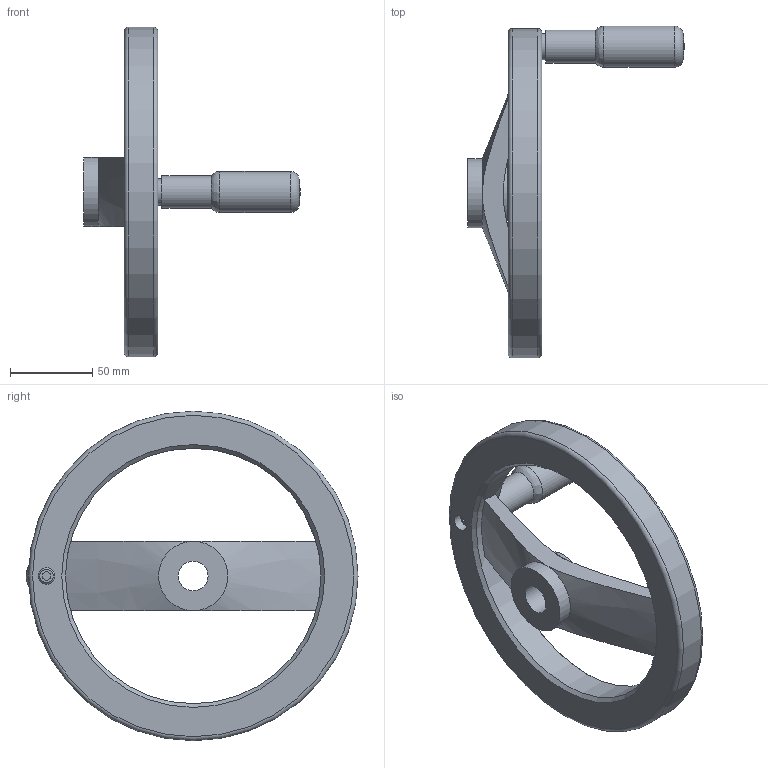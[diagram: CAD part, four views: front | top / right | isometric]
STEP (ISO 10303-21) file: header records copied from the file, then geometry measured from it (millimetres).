
FILE_DESCRIPTION( ( 'STEP AP203' ), '1' );
FILE_NAME( 'C:/Temp/Ganter_Step_05_03_2020/data/1_3/gn_324/gn_324_b/gn_324_b_d/Handwheel, matt black GN 324-200-B18-R.stp', '2020-03-05T10:32:57', ( 'License CC BY-ND 4.0' ), ( 'CADENAS' ), ' ', 'PARTsolutions', ' ' );
FILE_SCHEMA( ( 'CONFIG_CONTROL_DESIGN' ) );
Length unit declared in the file: millimetre
Products named in the file (1): _Handwheel, matt black GN 324-200-B18-R
Bounding box: 131.5 x 201.5 x 200 mm (x, y, z)
Volume: 370905.3 mm3; surface area: 70981.7 mm2
Topology: 1 solids, 2 shells, 40 faces, 86 edges, 52 vertices
Faces by surface type: plane 16, cylinder 11, cone 8, torus 3, bspline 1, sphere 1
Full cylindrical faces by diameter (mm): 8.14 x1, 10 x2, 16 x1, 18 x1, 20 x1, 25 x1, 42 x2, 155 x1, 200 x1
Entity records: 1179 total; most frequent: CARTESIAN_POINT 335, DIRECTION 170, ORIENTED_EDGE 128, AXIS2_PLACEMENT_3D 74, EDGE_LOOP 70, EDGE_CURVE 64, FACE_OUTER_BOUND 55, VERTEX_POINT 51
